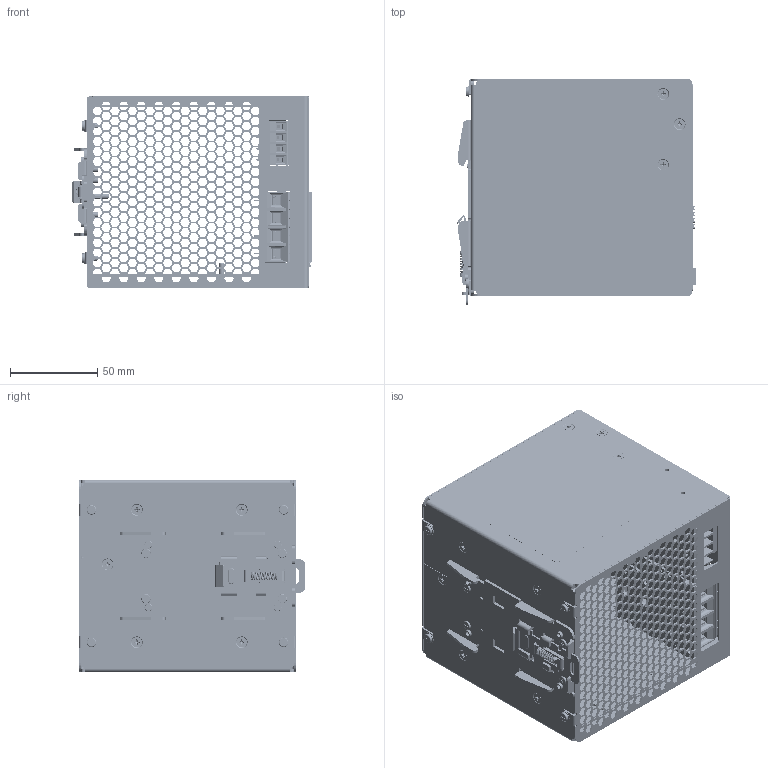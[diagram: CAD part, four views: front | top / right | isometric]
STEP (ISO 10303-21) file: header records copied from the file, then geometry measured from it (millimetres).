
FILE_DESCRIPTION((''),'2;1');
FILE_NAME('DRF-48V960W3GBA-PD00_ASM_3128_ASM','2024-08-02T',('Kidsada.Kohk'),(''),'CREO PARAMETRIC BY PTC INC, 2015080','CREO PARAMETRIC BY PTC INC, 2015080','');
FILE_SCHEMA(('CONFIG_CONTROL_DESIGN'));
Products named in the file (47): PWB_DC-TO-DC_BOARD_278; PWB_OUTPUT_ADC-126_23; BREP_WITH_VOIDS_61365_15; MANIFOLD_SOLID_BREP_64267_1; MANIFOLD_SOLID_BREP_67169_1; 1-4PIN_1_ASM_3_ASM; VP0464X40000G_ASM_11_ASM; PWB_OUTPUT_ADC-176-126_ASM_410_ASM; 3461381401_STANDOFF_L3_1; 3461676000_STANDOFF_L45_2; 337629150000_1; 330390250102_ASM_24_ASM; 3105320000_L6_3; 3105318101_L5_1; 3100001000_L10_4; 3105322400_L14_2; 307307817U_DG212R_26; 307375027U_DG212R_ASM_4_ASM; EE_VR_0604101318_2; EE_LED_2300251506_NEW48V_14; PWB_DC-TO-DC__ASM_1227_ASM; PWB_PFC_ADC-118_5; PWB_INPUT_ADC-117_56; 307347931G_KP04000306DAG_13; PWB_INPUT_ADC-117_ASM_211_ASM; 3103300600_6-32L6_1_1; 3103300600_6-32L6_1_2; 3103300600_6-32L6_1_ASM; 337629160001_1_1; 337629160001_1_2; 337629160001_1_ASM; 337629160000_A_STUD-_1; 337629160001_ASM_1_ASM; PWB__PFC_ADC-118_ASM_305_ASM; 346687370101_4_1; 346687370101_4_2; 346687370101_4_3; 346687370101_4_ASM; 346008810000_1; 346209430000_3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
Assembly tree (69 placements, depth 6):
  DRF-48V960W3GBA-PD00_ASM_3128_ASM
    PWB_DC-TO-DC__ASM_1227_ASM
      PWB_DC-TO-DC_BOARD_278
      PWB_OUTPUT_ADC-176-126_ASM_410_ASM
        PWB_OUTPUT_ADC-126_23
        VP0464X40000G_ASM_11_ASM
          1-4PIN_1_ASM_3_ASM
            BREP_WITH_VOIDS_61365_15
            MANIFOLD_SOLID_BREP_64267_1
            MANIFOLD_SOLID_BREP_67169_1
      3461381401_STANDOFF_L3_1
      3461676000_STANDOFF_L45_2
      330390250102_ASM_24_ASM
        337629150000_1
      3105320000_L6_3  x3
      3105318101_L5_1  x2
      3100001000_L10_4  x2
      3105322400_L14_2
      307375027U_DG212R_ASM_4_ASM
        307307817U_DG212R_26  x2
      EE_VR_0604101318_2
      EE_LED_2300251506_NEW48V_14
    PWB__PFC_ADC-118_ASM_305_ASM
      PWB_PFC_ADC-118_5
      PWB_INPUT_ADC-117_ASM_211_ASM
        PWB_INPUT_ADC-117_56
        307347931G_KP04000306DAG_13
      3103300600_6-32L6_1_ASM
        3103300600_6-32L6_1_1
        3103300600_6-32L6_1_2
      3105320000_L6_3  x3
      337629160001_ASM_1_ASM
        337629160001_1_ASM
          337629160001_1_1
          337629160001_1_2
        337629160000_A_STUD-_1
    ASSY_LATCH_ASM_4_ASM
      346687370101_4_ASM
        346687370101_4_1
        346687370101_4_2
        346687370101_4_3
      346008810000_1
      346209430000_3
    3105320000_L6_3  x6
    3100001000_L10_4
    326820910000_2
    3105318101_L5_1  x2
    3101028600_15  x4
    3105455700  x4
    326573960000_42
    337654040002_1
Bounding box: 136.84 x 129.1 x 110.05 mm (x, y, z)
Volume: 198584.8 mm3; surface area: 307366.2 mm2
Topology: 56 solids, 64 shells, 12660 faces, 35590 edges, 23140 vertices
Faces by surface type: plane 9343, cylinder 1697, extrusion 912, cone 317, bspline 263, torus 118, sphere 10
Entity records: 474960 total; most frequent: CARTESIAN_POINT 103653, ORIENTED_EDGE 65744, DIRECTION 55537, EDGE_CURVE 32872, VECTOR 27239, LINE 26331, PRESENTATION_STYLE_ASSIGNMENT 21787, STYLED_ITEM 21743
